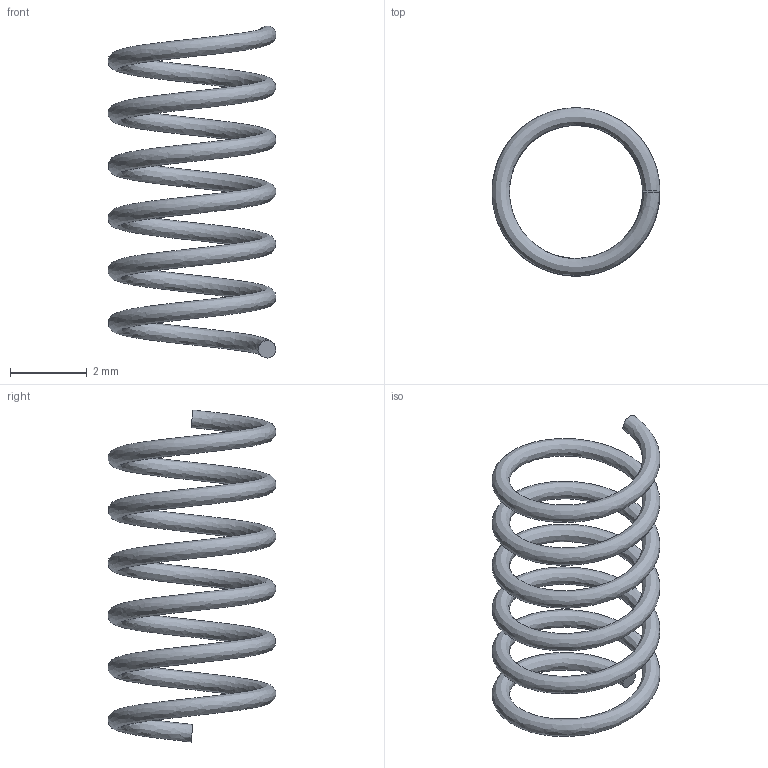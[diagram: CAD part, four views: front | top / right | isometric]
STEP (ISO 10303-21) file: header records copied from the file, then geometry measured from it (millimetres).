
FILE_DESCRIPTION(('Open CASCADE Model'),'2;1');
FILE_NAME('Open CASCADE Shape Model','2026-11-25T12:51:54',('Author'),( 'Open CASCADE'),'Open CASCADE STEP processor 8.0','Open CASCADE 8.0' ,'Unknown');
FILE_SCHEMA(('AP242_MANAGED_MODEL_BASED_3D_ENGINEERING_MIM_LF {1 0 10303 442 1 1 4 }' ));
Length unit declared in the file: millimetre
Products named in the file (1): Century Spring B18-127CS
Bounding box: 4.37 x 4.37 x 8.64 mm (x, y, z)
Volume: 12.2 mm3; surface area: 106.9 mm2
Topology: 1 solids, 1 shells, 3 faces, 3 edges, 2 vertices
Faces by surface type: plane 2, bspline 1
Entity records: 669 total; most frequent: CARTESIAN_POINT 590, DIRECTION 9, ORIENTED_EDGE 6, PCURVE 6, DEFINITIONAL_REPRESENTATION 6, AXIS2_PLACEMENT_3D 3, ADVANCED_FACE 3, FACE_BOUND 3
